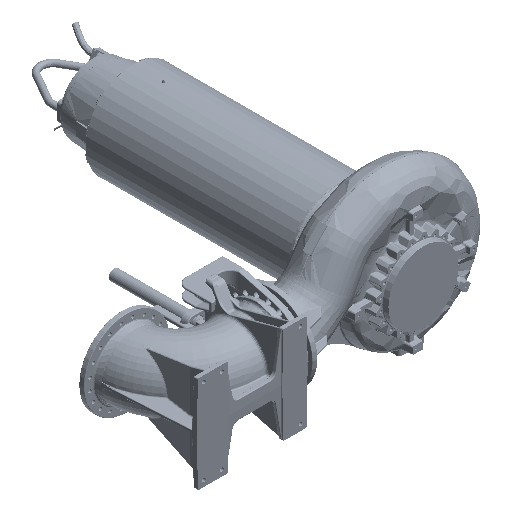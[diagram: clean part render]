
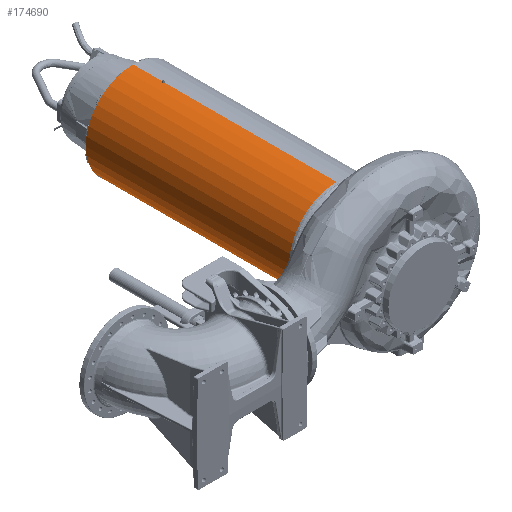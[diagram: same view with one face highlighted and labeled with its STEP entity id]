
A CAD part, isometric view. The second image highlights one B-rep face of the part: STEP entity #174690.
In plain terms, the highlighted cylindrical face has radius 391.5 mm (diameter 783 mm), a partial arc.
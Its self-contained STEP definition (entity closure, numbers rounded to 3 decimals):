
#4741 = EDGE_CURVE ( 'NONE', #329759, #387455, #175359, .T. ) ;
#7112 = EDGE_CURVE ( 'NONE', #169401, #364748, #240928, .T. ) ;
#10549 = CARTESIAN_POINT ( 'NONE',  ( -9.5, 2154.985, 391.385 ) ) ;
#12496 = CARTESIAN_POINT ( 'NONE',  ( -9.5, 2539.849, 391.385 ) ) ;
#15874 = CARTESIAN_POINT ( 'NONE',  ( -9.5, 2144.015, -391.385 ) ) ;
#20206 = ORIENTED_EDGE ( 'NONE', *, *, #178268, .F. ) ;
#21385 = ORIENTED_EDGE ( 'NONE', *, *, #4741, .T. ) ;
#24373 = EDGE_CURVE ( 'NONE', #244991, #40479, #148021, .T. ) ;
#24422 = ORIENTED_EDGE ( 'NONE', *, *, #135313, .F. ) ;
#40479 = VERTEX_POINT ( 'NONE', #351944 ) ;
#45950 = CARTESIAN_POINT ( 'NONE',  ( 0., 2160.47, -391.5 ) ) ;
#46403 = CARTESIAN_POINT ( 'NONE',  ( 0., 2539.849, -391.5 ) ) ;
#52694 = CARTESIAN_POINT ( 'NONE',  ( -9.5, 2144.015, -391.385 ) ) ;
#52959 = VECTOR ( 'NONE', #184311, 1000. ) ;
#53736 = EDGE_CURVE ( 'NONE', #320189, #329759, #246765, .T. ) ;
#57153 = DIRECTION ( 'NONE',  ( 0., 1., 0. ) ) ;
#60242 = CIRCLE ( 'NONE', #266781, 391.5 ) ;
#65873 = VECTOR ( 'NONE', #105640, 1000. ) ;
#70285 = VECTOR ( 'NONE', #139625, 1000. ) ;
#72466 = DIRECTION ( 'NONE',  ( 0., 1., 0. ) ) ;
#72661 = CARTESIAN_POINT ( 'NONE',  ( -3.167, 2158.641, 391.5 ) ) ;
#72819 = CARTESIAN_POINT ( 'NONE',  ( -6.334, 2142.187, 391.462 ) ) ;
#74714 = ORIENTED_EDGE ( 'NONE', *, *, #348822, .T. ) ;
#85564 = CARTESIAN_POINT ( 'NONE',  ( 0., 2160.47, -391.5 ) ) ;
#93068 = DIRECTION ( 'NONE',  ( 0., 1., 0. ) ) ;
#94305 = CARTESIAN_POINT ( 'NONE',  ( -9.5, 2154.985, -391.385 ) ) ;
#97368 = ORIENTED_EDGE ( 'NONE', *, *, #7112, .F. ) ;
#105640 = DIRECTION ( 'NONE',  ( 0., 1., 0. ) ) ;
#108708 = CARTESIAN_POINT ( 'NONE',  ( 0., 2399.5, -391.5 ) ) ;
#121296 =( BOUNDED_CURVE ( )  B_SPLINE_CURVE ( 3, ( #257993, #168889, #230869, #45950 ),
 .UNSPECIFIED., .F., .F. ) 
 B_SPLINE_CURVE_WITH_KNOTS ( ( 4, 4 ),
 ( 4.688, 4.712 ),
 .UNSPECIFIED. ) 
 CURVE ( )  GEOMETRIC_REPRESENTATION_ITEM ( )  RATIONAL_B_SPLINE_CURVE ( ( 1., 1., 1., 1. ) ) 
 REPRESENTATION_ITEM ( '' )  );
#127027 = VERTEX_POINT ( 'NONE', #108708 ) ;
#127966 = CARTESIAN_POINT ( 'NONE',  ( 0., 2539.849, -391.5 ) ) ;
#129923 = CARTESIAN_POINT ( 'NONE',  ( 0., 715.5, 0. ) ) ;
#135313 = EDGE_CURVE ( 'NONE', #320189, #202908, #316807, .T. ) ;
#135536 = CARTESIAN_POINT ( 'NONE',  ( 0., 2138.53, -391.5 ) ) ;
#136619 = CARTESIAN_POINT ( 'NONE',  ( -9.5, 2539.849, -391.385 ) ) ;
#139625 = DIRECTION ( 'NONE',  ( 0., 1., 0. ) ) ;
#142392 = ORIENTED_EDGE ( 'NONE', *, *, #186930, .T. ) ;
#148021 = LINE ( 'NONE', #12496, #65873 ) ;
#156064 = EDGE_CURVE ( 'NONE', #364748, #318523, #121296, .T. ) ;
#161011 = DIRECTION ( 'NONE',  ( 0., 0., -1. ) ) ;
#168889 = CARTESIAN_POINT ( 'NONE',  ( -6.334, 2156.813, -391.462 ) ) ;
#169401 = VERTEX_POINT ( 'NONE', #52694 ) ;
#169747 = CARTESIAN_POINT ( 'NONE',  ( 0., 2138.53, -391.5 ) ) ;
#174690 = ADVANCED_FACE ( 'NONE', ( #255915 ), #289740, .T. ) ;
#175359 = LINE ( 'NONE', #248247, #330026 ) ;
#177234 = ORIENTED_EDGE ( 'NONE', *, *, #24373, .T. ) ;
#178268 = EDGE_CURVE ( 'NONE', #127027, #290609, #60242, .T. ) ;
#184311 = DIRECTION ( 'NONE',  ( 0., 1., 0. ) ) ;
#186930 = EDGE_CURVE ( 'NONE', #387455, #244991, #238126, .T. ) ;
#200079 = ORIENTED_EDGE ( 'NONE', *, *, #156064, .F. ) ;
#200815 = CARTESIAN_POINT ( 'NONE',  ( -6.334, 2142.187, -391.462 ) ) ;
#202908 = VERTEX_POINT ( 'NONE', #135536 ) ;
#205832 = EDGE_CURVE ( 'NONE', #318523, #127027, #357703, .T. ) ;
#206159 =( BOUNDED_CURVE ( )  B_SPLINE_CURVE ( 3, ( #10549, #294355, #72661, #288739 ),
 .UNSPECIFIED., .F., .F. ) 
 B_SPLINE_CURVE_WITH_KNOTS ( ( 4, 4 ),
 ( 4.688, 4.712 ),
 .UNSPECIFIED. ) 
 CURVE ( )  GEOMETRIC_REPRESENTATION_ITEM ( )  RATIONAL_B_SPLINE_CURVE ( ( 1., 1., 1., 1. ) ) 
 REPRESENTATION_ITEM ( '' )  );
#213462 = CARTESIAN_POINT ( 'NONE',  ( 0., 2138.53, 391.5 ) ) ;
#214861 = EDGE_LOOP ( 'NONE', ( #340340, #21385, #142392, #177234, #297346, #74714, #20206, #222466, #200079, #97368, #289071, #24422 ) ) ;
#217233 = LINE ( 'NONE', #369386, #52959 ) ;
#222466 = ORIENTED_EDGE ( 'NONE', *, *, #205832, .F. ) ;
#230869 = CARTESIAN_POINT ( 'NONE',  ( -3.167, 2158.641, -391.5 ) ) ;
#238126 =( BOUNDED_CURVE ( )  B_SPLINE_CURVE ( 3, ( #318648, #380752, #72819, #288890 ),
 .UNSPECIFIED., .F., .F. ) 
 B_SPLINE_CURVE_WITH_KNOTS ( ( 4, 4 ),
 ( 4.712, 4.737 ),
 .UNSPECIFIED. ) 
 CURVE ( )  GEOMETRIC_REPRESENTATION_ITEM ( )  RATIONAL_B_SPLINE_CURVE ( ( 1., 1., 1., 1. ) ) 
 REPRESENTATION_ITEM ( '' )  );
#240612 = CARTESIAN_POINT ( 'NONE',  ( 0., 715.5, 391.5 ) ) ;
#240928 = LINE ( 'NONE', #136619, #395573 ) ;
#242080 = CARTESIAN_POINT ( 'NONE',  ( 0., 2539.849, 0. ) ) ;
#243304 = CARTESIAN_POINT ( 'NONE',  ( 0., 2399.5, 391.5 ) ) ;
#244991 = VERTEX_POINT ( 'NONE', #266769 ) ;
#246765 = CIRCLE ( 'NONE', #360815, 391.5 ) ;
#248247 = CARTESIAN_POINT ( 'NONE',  ( 0., 2539.849, 391.5 ) ) ;
#255915 = FACE_OUTER_BOUND ( 'NONE', #214861, .T. ) ;
#257389 = CARTESIAN_POINT ( 'NONE',  ( 0., 2399.5, 0. ) ) ;
#257993 = CARTESIAN_POINT ( 'NONE',  ( -9.5, 2154.985, -391.385 ) ) ;
#258735 = CARTESIAN_POINT ( 'NONE',  ( 0., 2160.47, 391.5 ) ) ;
#266769 = CARTESIAN_POINT ( 'NONE',  ( -9.5, 2144.015, 391.385 ) ) ;
#266781 = AXIS2_PLACEMENT_3D ( 'NONE', #257389, #72466, #288524 ) ;
#270225 = VERTEX_POINT ( 'NONE', #258735 ) ;
#275427 = VECTOR ( 'NONE', #375153, 1000. ) ;
#288524 = DIRECTION ( 'NONE',  ( 0., 0., -1. ) ) ;
#288739 = CARTESIAN_POINT ( 'NONE',  ( 0., 2160.47, 391.5 ) ) ;
#288890 = CARTESIAN_POINT ( 'NONE',  ( -9.5, 2144.015, 391.385 ) ) ;
#289071 = ORIENTED_EDGE ( 'NONE', *, *, #379830, .F. ) ;
#289740 = CYLINDRICAL_SURFACE ( 'NONE', #345674, 391.5 ) ;
#290609 = VERTEX_POINT ( 'NONE', #243304 ) ;
#294355 = CARTESIAN_POINT ( 'NONE',  ( -6.334, 2156.813, 391.462 ) ) ;
#297346 = ORIENTED_EDGE ( 'NONE', *, *, #397523, .T. ) ;
#316807 = LINE ( 'NONE', #46403, #70285 ) ;
#318523 = VERTEX_POINT ( 'NONE', #85564 ) ;
#318648 = CARTESIAN_POINT ( 'NONE',  ( 0., 2138.53, 391.5 ) ) ;
#320189 = VERTEX_POINT ( 'NONE', #341869 ) ;
#323723 = CARTESIAN_POINT ( 'NONE',  ( -3.167, 2140.359, -391.5 ) ) ;
#329759 = VERTEX_POINT ( 'NONE', #240612 ) ;
#330026 = VECTOR ( 'NONE', #93068, 1000. ) ;
#340340 = ORIENTED_EDGE ( 'NONE', *, *, #53736, .T. ) ;
#341869 = CARTESIAN_POINT ( 'NONE',  ( 0., 715.5, -391.5 ) ) ;
#344762 =( BOUNDED_CURVE ( )  B_SPLINE_CURVE ( 3, ( #169747, #323723, #200815, #15874 ),
 .UNSPECIFIED., .F., .F. ) 
 B_SPLINE_CURVE_WITH_KNOTS ( ( 4, 4 ),
 ( 4.712, 4.737 ),
 .UNSPECIFIED. ) 
 CURVE ( )  GEOMETRIC_REPRESENTATION_ITEM ( )  RATIONAL_B_SPLINE_CURVE ( ( 1., 1., 1., 1. ) ) 
 REPRESENTATION_ITEM ( '' )  );
#345674 = AXIS2_PLACEMENT_3D ( 'NONE', #242080, #57153, #397402 ) ;
#346088 = DIRECTION ( 'NONE',  ( 0., 1., 0. ) ) ;
#348822 = EDGE_CURVE ( 'NONE', #270225, #290609, #217233, .T. ) ;
#351944 = CARTESIAN_POINT ( 'NONE',  ( -9.5, 2154.985, 391.385 ) ) ;
#357703 = LINE ( 'NONE', #127966, #275427 ) ;
#360815 = AXIS2_PLACEMENT_3D ( 'NONE', #129923, #346088, #161011 ) ;
#364748 = VERTEX_POINT ( 'NONE', #94305 ) ;
#369386 = CARTESIAN_POINT ( 'NONE',  ( 0., 2539.849, 391.5 ) ) ;
#375153 = DIRECTION ( 'NONE',  ( 0., 1., 0. ) ) ;
#379830 = EDGE_CURVE ( 'NONE', #202908, #169401, #344762, .T. ) ;
#380752 = CARTESIAN_POINT ( 'NONE',  ( -3.167, 2140.359, 391.5 ) ) ;
#383778 = DIRECTION ( 'NONE',  ( 0., 1., 0. ) ) ;
#387455 = VERTEX_POINT ( 'NONE', #213462 ) ;
#395573 = VECTOR ( 'NONE', #383778, 1000. ) ;
#397402 = DIRECTION ( 'NONE',  ( 0., 0., -1. ) ) ;
#397523 = EDGE_CURVE ( 'NONE', #40479, #270225, #206159, .T. ) ;
